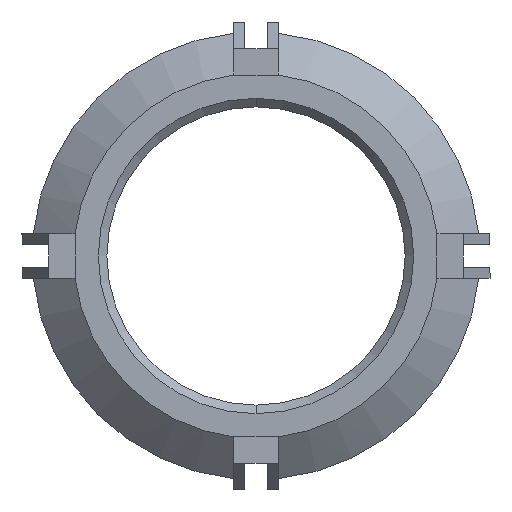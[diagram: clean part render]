
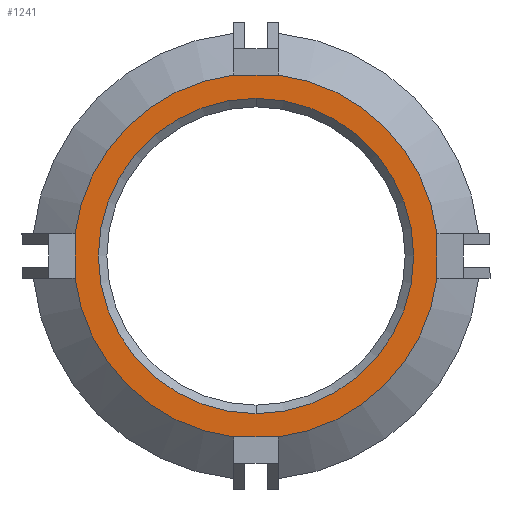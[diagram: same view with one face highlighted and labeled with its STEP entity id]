
A CAD part, front view. The second image highlights one B-rep face of the part: STEP entity #1241.
In plain terms, the highlighted planar face has unit normal (0, -1, 0).
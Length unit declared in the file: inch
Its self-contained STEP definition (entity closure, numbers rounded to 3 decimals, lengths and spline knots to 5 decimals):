
#168 = ORIENTED_EDGE ( 'NONE', *, *, #3626, .T. ) ;
#179 = CARTESIAN_POINT ( 'NONE',  ( 0.22748, 0., 0.02813 ) ) ;
#270 = CARTESIAN_POINT ( 'NONE',  ( 0., 0., 0. ) ) ;
#326 = DIRECTION ( 'NONE',  ( 0., 0., 1. ) ) ;
#329 = CARTESIAN_POINT ( 'NONE',  ( -0.22748, 0., -0.02813 ) ) ;
#330 = CARTESIAN_POINT ( 'NONE',  ( -0.22748, 0., 0.02812 ) ) ;
#356 = DIRECTION ( 'NONE',  ( 0., 1., 0. ) ) ;
#380 = AXIS2_PLACEMENT_3D ( 'NONE', #2459, #1863, #1022 ) ;
#588 = EDGE_CURVE ( 'NONE', #1966, #2563, #705, .T. ) ;
#603 = LINE ( 'NONE', #2915, #3543 ) ;
#607 = AXIS2_PLACEMENT_3D ( 'NONE', #2961, #356, #1181 ) ;
#656 = CARTESIAN_POINT ( 'NONE',  ( -0.02813, 0., 0.22748 ) ) ;
#705 = CIRCLE ( 'NONE', #2159, 0.22921 ) ;
#706 = EDGE_CURVE ( 'NONE', #1364, #1896, #2209, .T. ) ;
#709 = ORIENTED_EDGE ( 'NONE', *, *, #2896, .T. ) ;
#784 = CIRCLE ( 'NONE', #607, 0.19821 ) ;
#815 = EDGE_CURVE ( 'NONE', #2260, #3324, #603, .T. ) ;
#841 = EDGE_CURVE ( 'NONE', #1122, #2563, #984, .T. ) ;
#984 = LINE ( 'NONE', #1270, #2507 ) ;
#1016 = FACE_OUTER_BOUND ( 'NONE', #3536, .T. ) ;
#1022 = DIRECTION ( 'NONE',  ( 0., 0., -1. ) ) ;
#1053 = ORIENTED_EDGE ( 'NONE', *, *, #815, .F. ) ;
#1057 = CARTESIAN_POINT ( 'NONE',  ( 0., 0., -0.19821 ) ) ;
#1060 = ORIENTED_EDGE ( 'NONE', *, *, #706, .T. ) ;
#1074 = LINE ( 'NONE', #2053, #1942 ) ;
#1122 = VERTEX_POINT ( 'NONE', #656 ) ;
#1153 = DIRECTION ( 'NONE',  ( 0., -1., 0. ) ) ;
#1181 = DIRECTION ( 'NONE',  ( 0., 0., 1. ) ) ;
#1223 = DIRECTION ( 'NONE',  ( 0., 0., -1. ) ) ;
#1241 = ADVANCED_FACE ( 'NONE', ( #2393, #1016 ), #3614, .F. ) ;
#1270 = CARTESIAN_POINT ( 'NONE',  ( 0.02812, 0., 0.22748 ) ) ;
#1364 = VERTEX_POINT ( 'NONE', #1856 ) ;
#1457 = VECTOR ( 'NONE', #2918, 39.37008 ) ;
#1458 = CIRCLE ( 'NONE', #380, 0.22921 ) ;
#1502 = DIRECTION ( 'NONE',  ( 0., -1., 0. ) ) ;
#1537 = ORIENTED_EDGE ( 'NONE', *, *, #1780, .T. ) ;
#1541 = DIRECTION ( 'NONE',  ( 0., 0., -1. ) ) ;
#1564 = CARTESIAN_POINT ( 'NONE',  ( 0., 0., 0. ) ) ;
#1576 = DIRECTION ( 'NONE',  ( 1., 0., 0. ) ) ;
#1645 = AXIS2_PLACEMENT_3D ( 'NONE', #1564, #2443, #2770 ) ;
#1689 = VERTEX_POINT ( 'NONE', #1057 ) ;
#1730 = DIRECTION ( 'NONE',  ( 0., -1., 0. ) ) ;
#1757 = ORIENTED_EDGE ( 'NONE', *, *, #588, .T. ) ;
#1762 = VERTEX_POINT ( 'NONE', #3068 ) ;
#1780 = EDGE_CURVE ( 'NONE', #1122, #3324, #1458, .T. ) ;
#1824 = EDGE_CURVE ( 'NONE', #1966, #1896, #1074, .T. ) ;
#1839 = ORIENTED_EDGE ( 'NONE', *, *, #3455, .T. ) ;
#1842 = ORIENTED_EDGE ( 'NONE', *, *, #3303, .F. ) ;
#1856 = CARTESIAN_POINT ( 'NONE',  ( 0.02812, 0., -0.22748 ) ) ;
#1863 = DIRECTION ( 'NONE',  ( 0., -1., 0. ) ) ;
#1873 = DIRECTION ( 'NONE',  ( 0., 1., 0. ) ) ;
#1896 = VERTEX_POINT ( 'NONE', #2075 ) ;
#1932 = CARTESIAN_POINT ( 'NONE',  ( 0.02812, 0., 0.22748 ) ) ;
#1942 = VECTOR ( 'NONE', #1223, 39.37008 ) ;
#1966 = VERTEX_POINT ( 'NONE', #179 ) ;
#2053 = CARTESIAN_POINT ( 'NONE',  ( 0.22748, 0., -0.02812 ) ) ;
#2075 = CARTESIAN_POINT ( 'NONE',  ( 0.22748, 0., -0.02812 ) ) ;
#2098 = ORIENTED_EDGE ( 'NONE', *, *, #1824, .F. ) ;
#2102 = CARTESIAN_POINT ( 'NONE',  ( 0., 0., 0. ) ) ;
#2107 = CARTESIAN_POINT ( 'NONE',  ( -0.02812, 0., -0.22748 ) ) ;
#2159 = AXIS2_PLACEMENT_3D ( 'NONE', #270, #1153, #2823 ) ;
#2209 = CIRCLE ( 'NONE', #2870, 0.22921 ) ;
#2231 = DIRECTION ( 'NONE',  ( 0., 0., 1. ) ) ;
#2260 = VERTEX_POINT ( 'NONE', #329 ) ;
#2393 = FACE_BOUND ( 'NONE', #2959, .T. ) ;
#2443 = DIRECTION ( 'NONE',  ( 0., 1., 0. ) ) ;
#2459 = CARTESIAN_POINT ( 'NONE',  ( 0., 0., 0. ) ) ;
#2475 = CIRCLE ( 'NONE', #1645, 0.19821 ) ;
#2507 = VECTOR ( 'NONE', #1576, 39.37008 ) ;
#2537 = CARTESIAN_POINT ( 'NONE',  ( -0.02812, 0., -0.22748 ) ) ;
#2563 = VERTEX_POINT ( 'NONE', #1932 ) ;
#2684 = CARTESIAN_POINT ( 'NONE',  ( 0., 0., 0. ) ) ;
#2770 = DIRECTION ( 'NONE',  ( 0., 0., 1. ) ) ;
#2823 = DIRECTION ( 'NONE',  ( 0., 0., -1. ) ) ;
#2870 = AXIS2_PLACEMENT_3D ( 'NONE', #2102, #1502, #1541 ) ;
#2884 = AXIS2_PLACEMENT_3D ( 'NONE', #2684, #1873, #2231 ) ;
#2896 = EDGE_CURVE ( 'NONE', #1689, #1762, #784, .T. ) ;
#2915 = CARTESIAN_POINT ( 'NONE',  ( -0.22748, 0., 0.02812 ) ) ;
#2918 = DIRECTION ( 'NONE',  ( -1., 0., 0. ) ) ;
#2959 = EDGE_LOOP ( 'NONE', ( #709, #1839 ) ) ;
#2961 = CARTESIAN_POINT ( 'NONE',  ( 0., 0., 0. ) ) ;
#3068 = CARTESIAN_POINT ( 'NONE',  ( 0., 0., 0.19821 ) ) ;
#3141 = CARTESIAN_POINT ( 'NONE',  ( 0., 0., 0. ) ) ;
#3178 = VERTEX_POINT ( 'NONE', #2537 ) ;
#3242 = LINE ( 'NONE', #2107, #1457 ) ;
#3303 = EDGE_CURVE ( 'NONE', #1364, #3178, #3242, .T. ) ;
#3324 = VERTEX_POINT ( 'NONE', #330 ) ;
#3335 = AXIS2_PLACEMENT_3D ( 'NONE', #3141, #1730, #3731 ) ;
#3338 = CIRCLE ( 'NONE', #3335, 0.22921 ) ;
#3455 = EDGE_CURVE ( 'NONE', #1762, #1689, #2475, .T. ) ;
#3536 = EDGE_LOOP ( 'NONE', ( #1537, #1053, #168, #1842, #1060, #2098, #1757, #3745 ) ) ;
#3543 = VECTOR ( 'NONE', #326, 39.37008 ) ;
#3614 = PLANE ( 'NONE',  #2884 ) ;
#3626 = EDGE_CURVE ( 'NONE', #2260, #3178, #3338, .T. ) ;
#3731 = DIRECTION ( 'NONE',  ( 0., 0., -1. ) ) ;
#3745 = ORIENTED_EDGE ( 'NONE', *, *, #841, .F. ) ;
